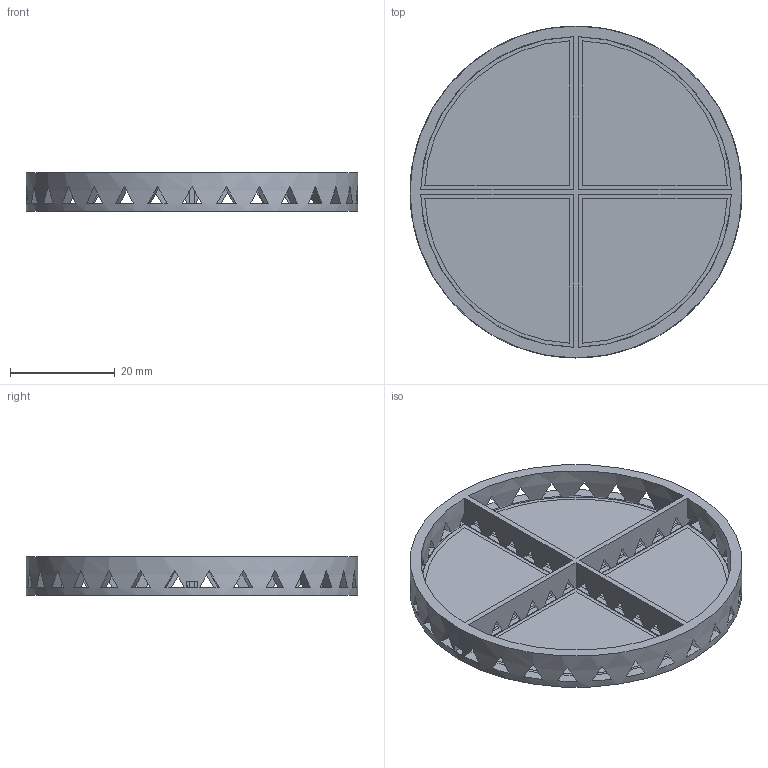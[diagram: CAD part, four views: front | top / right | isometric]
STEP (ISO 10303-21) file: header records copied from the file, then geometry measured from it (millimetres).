
FILE_DESCRIPTION(/* description */ ('STEP AP242','CAx-IF Rec.Pracs.---Representation and Presentation of Product Manufacturing Information (PMI)---4.0---2014-10-13','CAx-IF Rec.Pracs.---3D Tessellated Geometry---0.4---2014-09-14','2;1'),/* implementation_level */ '2;1');
FILE_NAME(/* name */ '63ae508051c8f322226c916d',/* time_stamp */ '2022-12-30T02:44:16+00:00',/* author */ (''),/* organization */ (''),/* preprocessor_version */ 'ST-DEVELOPER v18.102',/* originating_system */ ' ',/* authorisation */ ' ');
FILE_SCHEMA (('AP242_MANAGED_MODEL_BASED_3D_ENGINEERING_MIM_LF { 1 0 10303 442 1 1 4 }'));
Length unit declared in the file: metre
Products named in the file (5): Part 4; Part 1; Part 5; Part 2; Part 3
Bounding box: 63.37 x 63.37 x 7.3 mm (x, y, z)
Volume: 9201.2 mm3; surface area: 15806.8 mm2
Topology: 5 solids, 5 shells, 213 faces, 636 edges, 424 vertices
Faces by surface type: plane 204, cylinder 9
Full cylindrical faces by diameter (mm): 63.373 x1
Entity records: 7557 total; most frequent: DIRECTION 1280, CARTESIAN_POINT 1272, ORIENTED_EDGE 1264, EDGE_CURVE 632, AXIS2_PLACEMENT_3D 430, VERTEX_POINT 422, LINE 420, VECTOR 420
